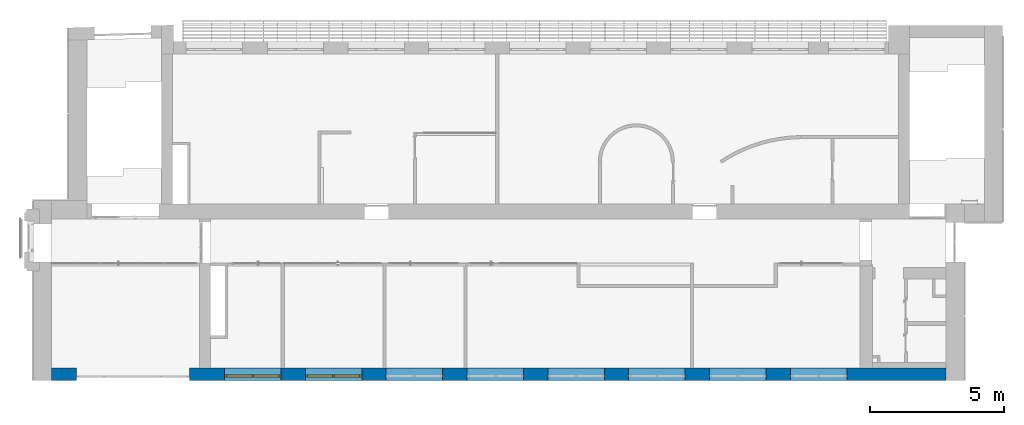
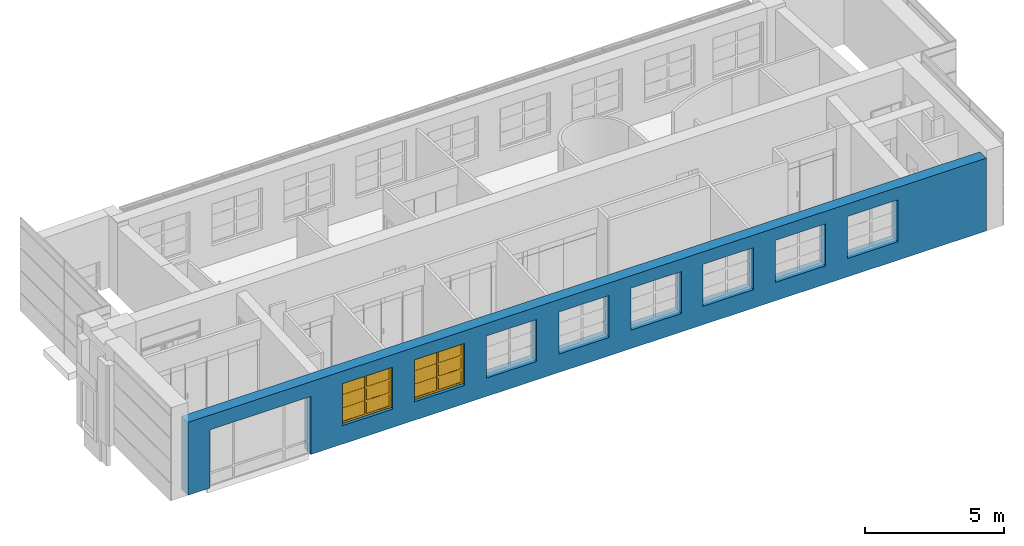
# One storey, part 26 of 46: 2 windows, 1 wall, 9 openings.
"""IFC2X3 building model written with IfcOpenShell, lengths in millimetres."""

from ifc_helpers import new_model, entity, si_unit, converted_unit, derived_unit, direction, frame, frame_2d, origin, origin_2d_with_axis, place, context, subcontext, project, spatial, rectangle, extrude, face_set, surface_model, source, transform, mapped, material, material_list, layer, layer_set, layer_usage, type_object, type_shapes, element, fill, save


model = new_model("IFC2X3")

# Units and contexts
model_context = context("Model", 3, precision=0.01, world=origin(), true_north=direction((6.12303176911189e-17, 1.0)))
body_context = subcontext(model_context, "Body", "Model", "MODEL_VIEW")
ifc_project = project(units=[si_unit("LENGTHUNIT", "METRE", prefix="MILLI"), si_unit("AREAUNIT", "SQUARE_METRE"), si_unit("VOLUMEUNIT", "CUBIC_METRE"), converted_unit("PLANEANGLEUNIT", "DEGREE", entity("IfcRatioMeasure", 0.0174532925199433), si_unit("PLANEANGLEUNIT", "RADIAN"), dimensions=[0, 0, 0, 0, 0, 0, 0]), si_unit("MASSUNIT", "GRAM", prefix="KILO"), derived_unit("MASSDENSITYUNIT", [(si_unit("MASSUNIT", "GRAM", prefix="KILO"), 1), (si_unit("LENGTHUNIT", "METRE"), -3)]), si_unit("TIMEUNIT", "SECOND"), si_unit("FREQUENCYUNIT", "HERTZ"), si_unit("THERMODYNAMICTEMPERATUREUNIT", "DEGREE_CELSIUS"), derived_unit("THERMALTRANSMITTANCEUNIT", [(si_unit("MASSUNIT", "GRAM", prefix="KILO"), 1), (si_unit("THERMODYNAMICTEMPERATUREUNIT", "KELVIN"), -1), (si_unit("TIMEUNIT", "SECOND"), -3)]), derived_unit("VOLUMETRICFLOWRATEUNIT", [(si_unit("LENGTHUNIT", "METRE"), 3), (si_unit("TIMEUNIT", "SECOND"), -1)]), si_unit("ELECTRICCURRENTUNIT", "AMPERE"), si_unit("ELECTRICVOLTAGEUNIT", "VOLT"), si_unit("POWERUNIT", "WATT"), si_unit("FORCEUNIT", "NEWTON", prefix="KILO"), si_unit("ILLUMINANCEUNIT", "LUX"), si_unit("LUMINOUSFLUXUNIT", "LUMEN"), si_unit("LUMINOUSINTENSITYUNIT", "CANDELA"), derived_unit("USERDEFINED", [(si_unit("MASSUNIT", "GRAM", prefix="KILO"), -1), (si_unit("LENGTHUNIT", "METRE"), -2), (si_unit("TIMEUNIT", "SECOND"), 3), (si_unit("LUMINOUSFLUXUNIT", "LUMEN"), 1)]), derived_unit("LINEARVELOCITYUNIT", [(si_unit("LENGTHUNIT", "METRE"), 1), (si_unit("TIMEUNIT", "SECOND"), -1)]), si_unit("PRESSUREUNIT", "PASCAL"), derived_unit("USERDEFINED", [(si_unit("LENGTHUNIT", "METRE"), -2), (si_unit("MASSUNIT", "GRAM", prefix="KILO"), 1), (si_unit("TIMEUNIT", "SECOND"), -2)])], contexts=[model_context])

# Site, building, storey
site_placement = place(None, frame((-151.875543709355, 2715.0, 0.0)))
site = spatial("IfcSite", under=ifc_project, at=site_placement, Name="Surface", CompositionType="ELEMENT")
building_placement = place(site_placement, origin())
building = spatial("IfcBuilding", under=site, at=building_placement, CompositionType="ELEMENT")
storey_placement = place(building_placement, frame((0.0, 0.0, 10060.0)))
storey = spatial("IfcBuildingStorey", under=building, at=storey_placement, Name="4 korrus", CompositionType="ELEMENT", Elevation=10060.0000000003)

# Wall, openings, windows
ifc_material_1 = material(Name="Brick, Common")
ifc_layer_1 = layer(ifc_material_1, 440.0)
ifc_material_2 = material(Name="__Kips GN13_tava")
ifc_layer_2 = layer(ifc_material_2, 20.0)
ifc_layer_set = layer_set([ifc_layer_1, ifc_layer_2], Name="Basic Wall:VS-1")
ifc_layer_usage = layer_usage(ifc_layer_set, "AXIS2", "NEGATIVE", 230.0)
wall_type = type_object("IfcWallType", Name="Basic Wall:VS-1", PredefinedType="STANDARD", material=ifc_layer_set)
wall_placement = place(storey_placement, frame((33741.6162682, 229.904632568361, 0.0), z_axis=(0.0, 0.0, 1.0), x_axis=(-1.0, 0.0, 0.0)))
wall = element("IfcWallStandardCase", 1, at=wall_placement, inside=storey, type_object=wall_type, material=ifc_layer_usage, Name="SEIN - 001", ObjectType="Basic Wall:VS-1", context=body_context, shape_type="SweptSolid", body=[
    extrude(rectangle(XDim=33281.740722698, YDim=460.0, at=frame_2d((16640.870361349, 0.0), x_axis=(-1.0, 0.0))), origin(), (0.0, 0.0, 1.0), 3210.37840402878),
])
opening_1_placement = place(wall_placement, frame((33741.6162682, 229.904632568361, 0.0), z_axis=(0.0, 0.0, 1.0), x_axis=(-1.0, 0.0, 0.0)))
element("IfcOpeningElement", 2, at=opening_1_placement, cuts=wall, Name="SEIN - 001", ObjectType="Opening", context=body_context, shape_type="SweptSolid", body=[
    extrude(rectangle(XDim=2560.0, YDim=4200.0, at=frame_2d((2.27373675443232e-13, 1.02318153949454e-12), x_axis=(0.0, 1.0))), frame((3483.85381698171, 928.104632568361, 1280.0), z_axis=(0.0, -1.0, 0.0), x_axis=(-1.0, 0.0, 0.0)), (0.0, 0.0, 1.0), 1393.8),
])
opening_2_placement = place(wall_placement, frame((33741.6162682, 229.904632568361, 0.0), z_axis=(0.0, 0.0, 1.0), x_axis=(-1.0, 0.0, 0.0)))
opening_2 = element("IfcOpeningElement", 3, at=opening_2_placement, cuts=wall, Name="SEIN - 001", ObjectType="Opening", context=body_context, shape_type="SweptSolid", body=[
    extrude(rectangle(XDim=1850.0, YDim=2100.0, at=frame_2d((0.0, 1.02318153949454e-12), x_axis=(1.0, 0.0))), frame((10949.5647264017, 927.804632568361, 1734.628696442), z_axis=(0.0, -1.0, 0.0), x_axis=(0.0, 0.0, 1.0)), (0.0, 0.0, 1.0), 1393.8),
])
opening_3_placement = place(wall_placement, frame((33741.6162682, 229.904632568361, 0.0), z_axis=(0.0, 0.0, 1.0), x_axis=(-1.0, 0.0, 0.0)))
opening_3 = element("IfcOpeningElement", 4, at=opening_3_placement, cuts=wall, Name="SEIN - 001", ObjectType="Opening", context=body_context, shape_type="SweptSolid", body=[
    extrude(rectangle(XDim=1850.0, YDim=2100.0, at=frame_2d((0.0, 5.6843418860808e-13), x_axis=(1.0, 0.0))), frame((7949.56472636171, 927.804632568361, 1734.628696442), z_axis=(0.0, -1.0, 0.0), x_axis=(0.0, 0.0, 1.0)), (0.0, 0.0, 1.0), 1393.8),
])
opening_4_placement = place(wall_placement, frame((33741.6162682, 229.904632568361, 0.0), z_axis=(0.0, 0.0, 1.0), x_axis=(-1.0, 0.0, 0.0)))
element("IfcOpeningElement", 5, at=opening_4_placement, cuts=wall, Name="SEIN - 001", ObjectType="Opening", context=body_context, shape_type="SweptSolid", body=[
    extrude(rectangle(XDim=1850.0, YDim=2100.0, at=origin_2d_with_axis()), frame((13949.5647264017, 927.804632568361, 1734.628696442), z_axis=(0.0, -1.0, 0.0), x_axis=(0.0, 0.0, 1.0)), (0.0, 0.0, 1.0), 1393.8),
])
opening_5_placement = place(wall_placement, frame((33741.6162682, 229.904632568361, 0.0), z_axis=(0.0, 0.0, 1.0), x_axis=(-1.0, 0.0, 0.0)))
element("IfcOpeningElement", 6, at=opening_5_placement, cuts=wall, Name="SEIN - 001", ObjectType="Opening", context=body_context, shape_type="SweptSolid", body=[
    extrude(rectangle(XDim=1850.0, YDim=2100.0, at=frame_2d((0.0, 1.02318153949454e-12), x_axis=(1.0, 0.0))), frame((16969.5647264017, 927.804632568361, 1734.628696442), z_axis=(0.0, -1.0, 0.0), x_axis=(0.0, 0.0, 1.0)), (0.0, 0.0, 1.0), 1393.8),
])
opening_6_placement = place(wall_placement, frame((33741.6162682, 229.904632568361, 0.0), z_axis=(0.0, 0.0, 1.0), x_axis=(-1.0, 0.0, 0.0)))
element("IfcOpeningElement", 7, at=opening_6_placement, cuts=wall, Name="SEIN - 001", ObjectType="Opening", context=body_context, shape_type="SweptSolid", body=[
    extrude(rectangle(XDim=1850.0, YDim=2100.0, at=origin_2d_with_axis()), frame((19979.5647264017, 927.804632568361, 1734.628696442), z_axis=(0.0, -1.0, 0.0), x_axis=(0.0, 0.0, 1.0)), (0.0, 0.0, 1.0), 1393.8),
])
opening_7_placement = place(wall_placement, frame((33741.6162682, 229.904632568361, 0.0), z_axis=(0.0, 0.0, 1.0), x_axis=(-1.0, 0.0, 0.0)))
element("IfcOpeningElement", 8, at=opening_7_placement, cuts=wall, Name="SEIN - 001", ObjectType="Opening", context=body_context, shape_type="SweptSolid", body=[
    extrude(rectangle(XDim=1850.0, YDim=2100.0, at=origin_2d_with_axis()), frame((22979.5647264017, 927.804632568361, 1734.628696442), z_axis=(0.0, -1.0, 0.0), x_axis=(0.0, 0.0, 1.0)), (0.0, 0.0, 1.0), 1393.8),
])
opening_8_placement = place(wall_placement, frame((33741.6162682, 229.904632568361, 0.0), z_axis=(0.0, 0.0, 1.0), x_axis=(-1.0, 0.0, 0.0)))
element("IfcOpeningElement", 9, at=opening_8_placement, cuts=wall, Name="SEIN - 001", ObjectType="Opening", context=body_context, shape_type="SweptSolid", body=[
    extrude(rectangle(XDim=1850.0, YDim=2100.0, at=origin_2d_with_axis()), frame((25989.5647264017, 927.804632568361, 1734.628696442), z_axis=(0.0, -1.0, 0.0), x_axis=(0.0, 0.0, 1.0)), (0.0, 0.0, 1.0), 1393.8),
])
opening_9_placement = place(wall_placement, frame((33741.6162682, 229.904632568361, 0.0), z_axis=(0.0, 0.0, 1.0), x_axis=(-1.0, 0.0, 0.0)))
element("IfcOpeningElement", 10, at=opening_9_placement, cuts=wall, Name="SEIN - 001", ObjectType="Opening", context=body_context, shape_type="SweptSolid", body=[
    extrude(rectangle(XDim=1850.0, YDim=2100.0, at=origin_2d_with_axis()), frame((28999.5647264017, 927.804632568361, 1734.628696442), z_axis=(0.0, -1.0, 0.0), x_axis=(0.0, 0.0, 1.0)), (0.0, 0.0, 1.0), 1393.8),
])
ifc_material_3 = material(Name="Paint - Titanium White")
ifc_material_4 = material(Name="Paint - Dark Gray")
ifc_material_5 = material(Name="Glass - Clear Fast")
ifc_material_list_1 = material_list([ifc_material_3, ifc_material_4, ifc_material_5])
ifc_material_list_2 = material_list([ifc_material_3, ifc_material_4, ifc_material_5])
window_style = type_object("IfcWindowStyle", Name="Aken_1850x2100", ConstructionType="NOTDEFINED", OperationType="DOUBLE_PANEL_VERTICAL", ParameterTakesPrecedence=False, Sizeable=False, material=ifc_material_list_2)
shared_shape = source(origin(), body_context, "Body", "SurfaceModel", [
    surface_model("IfcFaceBasedSurfaceModel", [(80.0, -665.9, 1770.0), (80.0, -620.9, 1770.0), (0.0, -620.9, 1770.0), (0.0, -665.9, 1770.0), (80.0, -665.9, 80.0), (80.0, -620.9, 80.0), (80.0, -620.9, 1770.0), (80.0, -665.9, 1770.0), (80.0, -620.9, 1770.0), (80.0, -620.9, 80.0), (0.0, -620.9, 80.0), (0.0, -620.9, 1770.0), (0.0, -665.9, 1770.0), (0.0, -620.9, 1770.0), (0.0, -620.9, 80.0), (0.0, -665.9, 80.0), (80.0, -665.9, 1770.0), (0.0, -665.9, 1770.0), (0.0, -665.9, 80.0), (80.0, -665.9, 80.0), (0.0, -665.9, 80.0), (0.0, -620.9, 80.0), (80.0, -620.9, 80.0), (80.0, -665.9, 80.0), (2020.0, -665.9, 80.0), (2020.0, -620.9, 80.0), (2100.0, -620.9, 80.0), (2100.0, -665.9, 80.0), (2020.0, -665.9, 1770.0), (2020.0, -620.9, 1770.0), (2020.0, -620.9, 80.0), (2020.0, -665.9, 80.0), (2020.0, -620.9, 80.0), (2020.0, -620.9, 1770.0), (2100.0, -620.9, 1770.0), (2100.0, -620.9, 80.0), (2100.0, -665.9, 80.0), (2100.0, -620.9, 80.0), (2100.0, -620.9, 1770.0), (2100.0, -665.9, 1770.0), (2020.0, -665.9, 80.0), (2100.0, -665.9, 80.0), (2100.0, -665.9, 1770.0), (2020.0, -665.9, 1770.0), (2100.0, -665.9, 1770.0), (2100.0, -620.9, 1770.0), (2020.0, -620.9, 1770.0), (2020.0, -665.9, 1770.0), (1010.0, -665.9, 80.0), (1010.0, -620.9, 80.0), (1090.0, -620.9, 80.0), (1090.0, -665.9, 80.0), (1010.0, -665.9, 1770.0), (1010.0, -620.9, 1770.0), (1010.0, -620.9, 80.0), (1010.0, -665.9, 80.0), (1010.0, -620.9, 80.0), (1010.0, -620.9, 1770.0), (1090.0, -620.9, 1770.0), (1090.0, -620.9, 80.0), (1090.0, -665.9, 80.0), (1090.0, -620.9, 80.0), (1090.0, -620.9, 1770.0), (1090.0, -665.9, 1770.0), (1010.0, -665.9, 80.0), (1090.0, -665.9, 80.0), (1090.0, -665.9, 1770.0), (1010.0, -665.9, 1770.0), (1090.0, -665.9, 1770.0), (1090.0, -620.9, 1770.0), (1010.0, -620.9, 1770.0), (1010.0, -665.9, 1770.0), (80.0, -665.9, 80.0), (80.0, -620.9, 80.0), (0.0, -620.9, 80.0), (0.0, -665.9, 80.0), (1010.0, -665.9, 80.0), (1010.0, -620.9, 80.0), (80.0, -620.9, 80.0), (80.0, -665.9, 80.0), (80.0, -620.9, 80.0), (1010.0, -620.9, 80.0), (1090.0, -620.9, 80.0), (2020.0, -620.9, 80.0), (2100.0, -620.9, 80.0), (2100.0, -620.9, 0.0), (0.0, -620.9, 0.0), (0.0, -620.9, 80.0), (0.0, -665.9, 80.0), (0.0, -620.9, 80.0), (0.0, -620.9, 0.0), (0.0, -665.9, 0.0), (80.0, -665.9, 80.0), (0.0, -665.9, 80.0), (0.0, -665.9, 0.0), (2100.0, -665.9, 0.0), (2100.0, -665.9, 80.0), (2020.0, -665.9, 80.0), (1090.0, -665.9, 80.0), (1010.0, -665.9, 80.0), (1090.0, -665.9, 80.0), (1090.0, -620.9, 80.0), (1010.0, -620.9, 80.0), (1010.0, -665.9, 80.0), (2020.0, -665.9, 80.0), (2020.0, -620.9, 80.0), (1090.0, -620.9, 80.0), (1090.0, -665.9, 80.0), (2100.0, -665.9, 80.0), (2100.0, -620.9, 80.0), (2020.0, -620.9, 80.0), (2020.0, -665.9, 80.0), (2100.0, -665.9, 0.0), (2100.0, -620.9, 0.0), (2100.0, -620.9, 80.0), (2100.0, -665.9, 80.0), (0.0, -665.9, 0.0), (0.0, -620.9, 0.0), (2100.0, -620.9, 0.0), (2100.0, -665.9, 0.0), (1010.0, -665.9, 1770.0), (1010.0, -620.9, 1770.0), (1090.0, -620.9, 1770.0), (1090.0, -665.9, 1770.0), (80.0, -665.9, 1770.0), (80.0, -620.9, 1770.0), (1010.0, -620.9, 1770.0), (1010.0, -665.9, 1770.0), (1010.0, -620.9, 1770.0), (80.0, -620.9, 1770.0), (0.0, -620.9, 1770.0), (0.0, -620.9, 1850.0), (2100.0, -620.9, 1850.0), (2100.0, -620.9, 1770.0), (2020.0, -620.9, 1770.0), (1090.0, -620.9, 1770.0), (1090.0, -665.9, 1770.0), (1090.0, -620.9, 1770.0), (2020.0, -620.9, 1770.0), (2020.0, -665.9, 1770.0), (1010.0, -665.9, 1770.0), (1090.0, -665.9, 1770.0), (2020.0, -665.9, 1770.0), (2100.0, -665.9, 1770.0), (2100.0, -665.9, 1850.0), (0.0, -665.9, 1850.0), (0.0, -665.9, 1770.0), (80.0, -665.9, 1770.0), (0.0, -665.9, 1770.0), (0.0, -620.9, 1770.0), (80.0, -620.9, 1770.0), (80.0, -665.9, 1770.0), (0.0, -665.9, 1850.0), (0.0, -620.9, 1850.0), (0.0, -620.9, 1770.0), (0.0, -665.9, 1770.0), (2100.0, -665.9, 1850.0), (2100.0, -620.9, 1850.0), (0.0, -620.9, 1850.0), (0.0, -665.9, 1850.0), (2100.0, -665.9, 1770.0), (2100.0, -620.9, 1770.0), (2100.0, -620.9, 1850.0), (2100.0, -665.9, 1850.0), (2020.0, -665.9, 1770.0), (2020.0, -620.9, 1770.0), (2100.0, -620.9, 1770.0), (2100.0, -665.9, 1770.0), (80.0, -640.9, 590.0), (80.0, -630.9, 590.0), (1010.0, -630.9, 590.0), (1010.0, -640.9, 590.0), (80.0, -640.9, 670.0), (80.0, -630.9, 670.0), (80.0, -630.9, 590.0), (80.0, -640.9, 590.0), (80.0, -630.9, 590.0), (80.0, -630.9, 670.0), (1010.0, -630.9, 670.0), (1010.0, -630.9, 590.0), (1010.0, -640.9, 590.0), (1010.0, -630.9, 590.0), (1010.0, -630.9, 670.0), (1010.0, -640.9, 670.0), (80.0, -640.9, 590.0), (1010.0, -640.9, 590.0), (1010.0, -640.9, 670.0), (80.0, -640.9, 670.0), (1010.0, -640.9, 670.0), (1010.0, -630.9, 670.0), (80.0, -630.9, 670.0), (80.0, -640.9, 670.0), (80.0, -640.9, 1180.0), (80.0, -630.9, 1180.0), (1010.0, -630.9, 1180.0), (1010.0, -640.9, 1180.0), (80.0, -640.9, 1260.0), (80.0, -630.9, 1260.0), (80.0, -630.9, 1180.0), (80.0, -640.9, 1180.0), (80.0, -630.9, 1180.0), (80.0, -630.9, 1260.0), (1010.0, -630.9, 1260.0), (1010.0, -630.9, 1180.0), (1010.0, -640.9, 1180.0), (1010.0, -630.9, 1180.0), (1010.0, -630.9, 1260.0), (1010.0, -640.9, 1260.0), (80.0, -640.9, 1180.0), (1010.0, -640.9, 1180.0), (1010.0, -640.9, 1260.0), (80.0, -640.9, 1260.0), (1010.0, -640.9, 1260.0), (1010.0, -630.9, 1260.0), (80.0, -630.9, 1260.0), (80.0, -640.9, 1260.0), (1090.0, -640.9, 590.0), (1090.0, -630.9, 590.0), (2020.0, -630.9, 590.0), (2020.0, -640.9, 590.0), (1090.0, -640.9, 670.0), (1090.0, -630.9, 670.0), (1090.0, -630.9, 590.0), (1090.0, -640.9, 590.0), (1090.0, -630.9, 590.0), (1090.0, -630.9, 670.0), (2020.0, -630.9, 670.0), (2020.0, -630.9, 590.0), (2020.0, -640.9, 590.0), (2020.0, -630.9, 590.0), (2020.0, -630.9, 670.0), (2020.0, -640.9, 670.0), (1090.0, -640.9, 590.0), (2020.0, -640.9, 590.0), (2020.0, -640.9, 670.0), (1090.0, -640.9, 670.0), (2020.0, -640.9, 670.0), (2020.0, -630.9, 670.0), (1090.0, -630.9, 670.0), (1090.0, -640.9, 670.0), (1090.0, -640.9, 1180.0), (1090.0, -630.9, 1180.0), (2020.0, -630.9, 1180.0), (2020.0, -640.9, 1180.0), (1090.0, -640.9, 1260.0), (1090.0, -630.9, 1260.0), (1090.0, -630.9, 1180.0), (1090.0, -640.9, 1180.0), (1090.0, -630.9, 1180.0), (1090.0, -630.9, 1260.0), (2020.0, -630.9, 1260.0), (2020.0, -630.9, 1180.0), (2020.0, -640.9, 1180.0), (2020.0, -630.9, 1180.0), (2020.0, -630.9, 1260.0), (2020.0, -640.9, 1260.0), (1090.0, -640.9, 1180.0), (2020.0, -640.9, 1180.0), (2020.0, -640.9, 1260.0), (1090.0, -640.9, 1260.0), (2020.0, -640.9, 1260.0), (2020.0, -630.9, 1260.0), (1090.0, -630.9, 1260.0), (1090.0, -640.9, 1260.0)], [face_set([[[0, 1, 2, 3]]]), face_set([[[4, 5, 6, 7]]]), face_set([[[8, 9, 10, 11]]]), face_set([[[12, 13, 14, 15]]]), face_set([[[16, 17, 18, 19]]]), face_set([[[20, 21, 22, 23]]]), face_set([[[24, 25, 26, 27]]]), face_set([[[28, 29, 30, 31]]]), face_set([[[32, 33, 34, 35]]]), face_set([[[36, 37, 38, 39]]]), face_set([[[40, 41, 42, 43]]]), face_set([[[44, 45, 46, 47]]]), face_set([[[48, 49, 50, 51]]]), face_set([[[52, 53, 54, 55]]]), face_set([[[56, 57, 58, 59]]]), face_set([[[60, 61, 62, 63]]]), face_set([[[64, 65, 66, 67]]]), face_set([[[68, 69, 70, 71]]]), face_set([[[72, 73, 74, 75]]]), face_set([[[76, 77, 78, 79]]]), face_set([[[80, 81, 82, 83, 84, 85, 86, 87]]]), face_set([[[88, 89, 90, 91]]]), face_set([[[92, 93, 94, 95, 96, 97, 98, 99]]]), face_set([[[100, 101, 102, 103]]]), face_set([[[104, 105, 106, 107]]]), face_set([[[108, 109, 110, 111]]]), face_set([[[112, 113, 114, 115]]]), face_set([[[116, 117, 118, 119]]]), face_set([[[120, 121, 122, 123]]]), face_set([[[124, 125, 126, 127]]]), face_set([[[128, 129, 130, 131, 132, 133, 134, 135]]]), face_set([[[136, 137, 138, 139]]]), face_set([[[140, 141, 142, 143, 144, 145, 146, 147]]]), face_set([[[148, 149, 150, 151]]]), face_set([[[152, 153, 154, 155]]]), face_set([[[156, 157, 158, 159]]]), face_set([[[160, 161, 162, 163]]]), face_set([[[164, 165, 166, 167]]]), face_set([[[168, 169, 170, 171]]]), face_set([[[172, 173, 174, 175]]]), face_set([[[176, 177, 178, 179]]]), face_set([[[180, 181, 182, 183]]]), face_set([[[184, 185, 186, 187]]]), face_set([[[188, 189, 190, 191]]]), face_set([[[192, 193, 194, 195]]]), face_set([[[196, 197, 198, 199]]]), face_set([[[200, 201, 202, 203]]]), face_set([[[204, 205, 206, 207]]]), face_set([[[208, 209, 210, 211]]]), face_set([[[212, 213, 214, 215]]]), face_set([[[216, 217, 218, 219]]]), face_set([[[220, 221, 222, 223]]]), face_set([[[224, 225, 226, 227]]]), face_set([[[228, 229, 230, 231]]]), face_set([[[232, 233, 234, 235]]]), face_set([[[236, 237, 238, 239]]]), face_set([[[240, 241, 242, 243]]]), face_set([[[244, 245, 246, 247]]]), face_set([[[248, 249, 250, 251]]]), face_set([[[252, 253, 254, 255]]]), face_set([[[256, 257, 258, 259]]]), face_set([[[260, 261, 262, 263]]])]),
    surface_model("IfcFaceBasedSurfaceModel", [(80.0, -620.9, 1770.0), (80.0, -595.9, 1770.0), (0.0, -595.9, 1770.0), (0.0, -620.9, 1770.0), (80.0, -620.9, 80.0), (80.0, -595.9, 80.0), (80.0, -595.9, 1770.0), (80.0, -620.9, 1770.0), (80.0, -595.9, 1770.0), (80.0, -595.9, 80.0), (0.0, -595.9, 80.0), (0.0, -595.9, 1770.0), (0.0, -620.9, 1770.0), (0.0, -595.9, 1770.0), (0.0, -595.9, 80.0), (0.0, -620.9, 80.0), (80.0, -620.9, 1770.0), (0.0, -620.9, 1770.0), (0.0, -620.9, 80.0), (80.0, -620.9, 80.0), (0.0, -620.9, 80.0), (0.0, -595.9, 80.0), (80.0, -595.9, 80.0), (80.0, -620.9, 80.0), (2020.0, -620.9, 80.0), (2020.0, -595.9, 80.0), (2100.0, -595.9, 80.0), (2100.0, -620.9, 80.0), (2020.0, -620.9, 1770.0), (2020.0, -595.9, 1770.0), (2020.0, -595.9, 80.0), (2020.0, -620.9, 80.0), (2020.0, -595.9, 80.0), (2020.0, -595.9, 1770.0), (2100.0, -595.9, 1770.0), (2100.0, -595.9, 80.0), (2100.0, -620.9, 80.0), (2100.0, -595.9, 80.0), (2100.0, -595.9, 1770.0), (2100.0, -620.9, 1770.0), (2020.0, -620.9, 80.0), (2100.0, -620.9, 80.0), (2100.0, -620.9, 1770.0), (2020.0, -620.9, 1770.0), (2100.0, -620.9, 1770.0), (2100.0, -595.9, 1770.0), (2020.0, -595.9, 1770.0), (2020.0, -620.9, 1770.0), (1010.0, -620.9, 80.0), (1010.0, -595.9, 80.0), (1090.0, -595.9, 80.0), (1090.0, -620.9, 80.0), (1010.0, -620.9, 1770.0), (1010.0, -595.9, 1770.0), (1010.0, -595.9, 80.0), (1010.0, -620.9, 80.0), (1010.0, -595.9, 80.0), (1010.0, -595.9, 1770.0), (1090.0, -595.9, 1770.0), (1090.0, -595.9, 80.0), (1090.0, -620.9, 80.0), (1090.0, -595.9, 80.0), (1090.0, -595.9, 1770.0), (1090.0, -620.9, 1770.0), (1010.0, -620.9, 80.0), (1090.0, -620.9, 80.0), (1090.0, -620.9, 1770.0), (1010.0, -620.9, 1770.0), (1090.0, -620.9, 1770.0), (1090.0, -595.9, 1770.0), (1010.0, -595.9, 1770.0), (1010.0, -620.9, 1770.0), (80.0, -620.9, 80.0), (80.0, -595.9, 80.0), (0.0, -595.9, 80.0), (0.0, -620.9, 80.0), (1010.0, -620.9, 80.0), (1010.0, -595.9, 80.0), (80.0, -595.9, 80.0), (80.0, -620.9, 80.0), (80.0, -595.9, 80.0), (1010.0, -595.9, 80.0), (1090.0, -595.9, 80.0), (2020.0, -595.9, 80.0), (2100.0, -595.9, 80.0), (2100.0, -595.9, 0.0), (0.0, -595.9, 0.0), (0.0, -595.9, 80.0), (0.0, -620.9, 80.0), (0.0, -595.9, 80.0), (0.0, -595.9, 0.0), (0.0, -620.9, 0.0), (80.0, -620.9, 80.0), (0.0, -620.9, 80.0), (0.0, -620.9, 0.0), (2100.0, -620.9, 0.0), (2100.0, -620.9, 80.0), (2020.0, -620.9, 80.0), (1090.0, -620.9, 80.0), (1010.0, -620.9, 80.0), (1090.0, -620.9, 80.0), (1090.0, -595.9, 80.0), (1010.0, -595.9, 80.0), (1010.0, -620.9, 80.0), (2020.0, -620.9, 80.0), (2020.0, -595.9, 80.0), (1090.0, -595.9, 80.0), (1090.0, -620.9, 80.0), (2100.0, -620.9, 80.0), (2100.0, -595.9, 80.0), (2020.0, -595.9, 80.0), (2020.0, -620.9, 80.0), (2100.0, -620.9, 0.0), (2100.0, -595.9, 0.0), (2100.0, -595.9, 80.0), (2100.0, -620.9, 80.0), (0.0, -620.9, 0.0), (0.0, -595.9, 0.0), (2100.0, -595.9, 0.0), (2100.0, -620.9, 0.0), (1010.0, -620.9, 1770.0), (1010.0, -595.9, 1770.0), (1090.0, -595.9, 1770.0), (1090.0, -620.9, 1770.0), (80.0, -620.9, 1770.0), (80.0, -595.9, 1770.0), (1010.0, -595.9, 1770.0), (1010.0, -620.9, 1770.0), (1010.0, -595.9, 1770.0), (80.0, -595.9, 1770.0), (0.0, -595.9, 1770.0), (0.0, -595.9, 1850.0), (2100.0, -595.9, 1850.0), (2100.0, -595.9, 1770.0), (2020.0, -595.9, 1770.0), (1090.0, -595.9, 1770.0), (1090.0, -620.9, 1770.0), (1090.0, -595.9, 1770.0), (2020.0, -595.9, 1770.0), (2020.0, -620.9, 1770.0), (1010.0, -620.9, 1770.0), (1090.0, -620.9, 1770.0), (2020.0, -620.9, 1770.0), (2100.0, -620.9, 1770.0), (2100.0, -620.9, 1850.0), (0.0, -620.9, 1850.0), (0.0, -620.9, 1770.0), (80.0, -620.9, 1770.0), (0.0, -620.9, 1770.0), (0.0, -595.9, 1770.0), (80.0, -595.9, 1770.0), (80.0, -620.9, 1770.0), (0.0, -620.9, 1850.0), (0.0, -595.9, 1850.0), (0.0, -595.9, 1770.0), (0.0, -620.9, 1770.0), (2100.0, -620.9, 1850.0), (2100.0, -595.9, 1850.0), (0.0, -595.9, 1850.0), (0.0, -620.9, 1850.0), (2100.0, -620.9, 1770.0), (2100.0, -595.9, 1770.0), (2100.0, -595.9, 1850.0), (2100.0, -620.9, 1850.0), (2020.0, -620.9, 1770.0), (2020.0, -595.9, 1770.0), (2100.0, -595.9, 1770.0), (2100.0, -620.9, 1770.0), (80.0, -630.9, 590.0), (80.0, -600.9, 590.0), (1010.0, -600.9, 590.0), (1010.0, -630.9, 590.0), (80.0, -630.9, 670.0), (80.0, -600.9, 670.0), (80.0, -600.9, 590.0), (80.0, -630.9, 590.0), (80.0, -600.9, 590.0), (80.0, -600.9, 670.0), (1010.0, -600.9, 670.0), (1010.0, -600.9, 590.0), (1010.0, -630.9, 590.0), (1010.0, -600.9, 590.0), (1010.0, -600.9, 670.0), (1010.0, -630.9, 670.0), (80.0, -630.9, 590.0), (1010.0, -630.9, 590.0), (1010.0, -630.9, 670.0), (80.0, -630.9, 670.0), (1010.0, -630.9, 670.0), (1010.0, -600.9, 670.0), (80.0, -600.9, 670.0), (80.0, -630.9, 670.0), (80.0, -630.9, 1180.0), (80.0, -600.9, 1180.0), (1010.0, -600.9, 1180.0), (1010.0, -630.9, 1180.0), (80.0, -630.9, 1260.0), (80.0, -600.9, 1260.0), (80.0, -600.9, 1180.0), (80.0, -630.9, 1180.0), (80.0, -600.9, 1180.0), (80.0, -600.9, 1260.0), (1010.0, -600.9, 1260.0), (1010.0, -600.9, 1180.0), (1010.0, -630.9, 1180.0), (1010.0, -600.9, 1180.0), (1010.0, -600.9, 1260.0), (1010.0, -630.9, 1260.0), (80.0, -630.9, 1180.0), (1010.0, -630.9, 1180.0), (1010.0, -630.9, 1260.0), (80.0, -630.9, 1260.0), (1010.0, -630.9, 1260.0), (1010.0, -600.9, 1260.0), (80.0, -600.9, 1260.0), (80.0, -630.9, 1260.0), (1090.0, -630.9, 590.0), (1090.0, -600.9, 590.0), (2020.0, -600.9, 590.0), (2020.0, -630.9, 590.0), (1090.0, -630.9, 670.0), (1090.0, -600.9, 670.0), (1090.0, -600.9, 590.0), (1090.0, -630.9, 590.0), (1090.0, -600.9, 590.0), (1090.0, -600.9, 670.0), (2020.0, -600.9, 670.0), (2020.0, -600.9, 590.0), (2020.0, -630.9, 590.0), (2020.0, -600.9, 590.0), (2020.0, -600.9, 670.0), (2020.0, -630.9, 670.0), (1090.0, -630.9, 590.0), (2020.0, -630.9, 590.0), (2020.0, -630.9, 670.0), (1090.0, -630.9, 670.0), (2020.0, -630.9, 670.0), (2020.0, -600.9, 670.0), (1090.0, -600.9, 670.0), (1090.0, -630.9, 670.0), (1090.0, -630.9, 1180.0), (1090.0, -600.9, 1180.0), (2020.0, -600.9, 1180.0), (2020.0, -630.9, 1180.0), (1090.0, -630.9, 1260.0), (1090.0, -600.9, 1260.0), (1090.0, -600.9, 1180.0), (1090.0, -630.9, 1180.0), (1090.0, -600.9, 1180.0), (1090.0, -600.9, 1260.0), (2020.0, -600.9, 1260.0), (2020.0, -600.9, 1180.0), (2020.0, -630.9, 1180.0), (2020.0, -600.9, 1180.0), (2020.0, -600.9, 1260.0), (2020.0, -630.9, 1260.0), (1090.0, -630.9, 1180.0), (2020.0, -630.9, 1180.0), (2020.0, -630.9, 1260.0), (1090.0, -630.9, 1260.0), (2020.0, -630.9, 1260.0), (2020.0, -600.9, 1260.0), (1090.0, -600.9, 1260.0), (1090.0, -630.9, 1260.0)], [face_set([[[0, 1, 2, 3]]]), face_set([[[4, 5, 6, 7]]]), face_set([[[8, 9, 10, 11]]]), face_set([[[12, 13, 14, 15]]]), face_set([[[16, 17, 18, 19]]]), face_set([[[20, 21, 22, 23]]]), face_set([[[24, 25, 26, 27]]]), face_set([[[28, 29, 30, 31]]]), face_set([[[32, 33, 34, 35]]]), face_set([[[36, 37, 38, 39]]]), face_set([[[40, 41, 42, 43]]]), face_set([[[44, 45, 46, 47]]]), face_set([[[48, 49, 50, 51]]]), face_set([[[52, 53, 54, 55]]]), face_set([[[56, 57, 58, 59]]]), face_set([[[60, 61, 62, 63]]]), face_set([[[64, 65, 66, 67]]]), face_set([[[68, 69, 70, 71]]]), face_set([[[72, 73, 74, 75]]]), face_set([[[76, 77, 78, 79]]]), face_set([[[80, 81, 82, 83, 84, 85, 86, 87]]]), face_set([[[88, 89, 90, 91]]]), face_set([[[92, 93, 94, 95, 96, 97, 98, 99]]]), face_set([[[100, 101, 102, 103]]]), face_set([[[104, 105, 106, 107]]]), face_set([[[108, 109, 110, 111]]]), face_set([[[112, 113, 114, 115]]]), face_set([[[116, 117, 118, 119]]]), face_set([[[120, 121, 122, 123]]]), face_set([[[124, 125, 126, 127]]]), face_set([[[128, 129, 130, 131, 132, 133, 134, 135]]]), face_set([[[136, 137, 138, 139]]]), face_set([[[140, 141, 142, 143, 144, 145, 146, 147]]]), face_set([[[148, 149, 150, 151]]]), face_set([[[152, 153, 154, 155]]]), face_set([[[156, 157, 158, 159]]]), face_set([[[160, 161, 162, 163]]]), face_set([[[164, 165, 166, 167]]]), face_set([[[168, 169, 170, 171]]]), face_set([[[172, 173, 174, 175]]]), face_set([[[176, 177, 178, 179]]]), face_set([[[180, 181, 182, 183]]]), face_set([[[184, 185, 186, 187]]]), face_set([[[188, 189, 190, 191]]]), face_set([[[192, 193, 194, 195]]]), face_set([[[196, 197, 198, 199]]]), face_set([[[200, 201, 202, 203]]]), face_set([[[204, 205, 206, 207]]]), face_set([[[208, 209, 210, 211]]]), face_set([[[212, 213, 214, 215]]]), face_set([[[216, 217, 218, 219]]]), face_set([[[220, 221, 222, 223]]]), face_set([[[224, 225, 226, 227]]]), face_set([[[228, 229, 230, 231]]]), face_set([[[232, 233, 234, 235]]]), face_set([[[236, 237, 238, 239]]]), face_set([[[240, 241, 242, 243]]]), face_set([[[244, 245, 246, 247]]]), face_set([[[248, 249, 250, 251]]]), face_set([[[252, 253, 254, 255]]]), face_set([[[256, 257, 258, 259]]]), face_set([[[260, 261, 262, 263]]])]),
    surface_model("IfcFaceBasedSurfaceModel", [(1010.0, -630.9, 80.0), (1010.0, -630.9, 590.0), (80.0, -630.9, 590.0), (80.0, -630.9, 80.0), (1010.0, -610.9, 80.0), (80.0, -610.9, 80.0), (80.0, -610.9, 590.0), (1010.0, -610.9, 590.0), (1010.0, -630.9, 670.0), (1010.0, -630.9, 1180.0), (80.0, -630.9, 1180.0), (80.0, -630.9, 670.0), (1010.0, -610.9, 670.0), (80.0, -610.9, 670.0), (80.0, -610.9, 1180.0), (1010.0, -610.9, 1180.0), (1010.0, -630.9, 1260.0), (1010.0, -630.9, 1770.0), (80.0, -630.9, 1770.0), (80.0, -630.9, 1260.0), (1010.0, -610.9, 1260.0), (80.0, -610.9, 1260.0), (80.0, -610.9, 1770.0), (1010.0, -610.9, 1770.0), (2020.0, -630.9, 80.0), (2020.0, -630.9, 590.0), (1090.0, -630.9, 590.0), (1090.0, -630.9, 80.0), (2020.0, -610.9, 80.0), (1090.0, -610.9, 80.0), (1090.0, -610.9, 590.0), (2020.0, -610.9, 590.0), (2020.0, -630.9, 670.0), (2020.0, -630.9, 1180.0), (1090.0, -630.9, 1180.0), (1090.0, -630.9, 670.0), (2020.0, -610.9, 670.0), (1090.0, -610.9, 670.0), (1090.0, -610.9, 1180.0), (2020.0, -610.9, 1180.0), (2020.0, -630.9, 1260.0), (2020.0, -630.9, 1770.0), (1090.0, -630.9, 1770.0), (1090.0, -630.9, 1260.0), (2020.0, -610.9, 1260.0), (1090.0, -610.9, 1260.0), (1090.0, -610.9, 1770.0), (2020.0, -610.9, 1770.0)], [face_set([[[0, 1, 2, 3]]]), face_set([[[4, 5, 6, 7]]]), face_set([[[8, 9, 10, 11]]]), face_set([[[12, 13, 14, 15]]]), face_set([[[16, 17, 18, 19]]]), face_set([[[20, 21, 22, 23]]]), face_set([[[24, 25, 26, 27]]]), face_set([[[28, 29, 30, 31]]]), face_set([[[32, 33, 34, 35]]]), face_set([[[36, 37, 38, 39]]]), face_set([[[40, 41, 42, 43]]]), face_set([[[44, 45, 46, 47]]])]),
])
type_shapes(window_style, [shared_shape])
window_1_placement = place(opening_2_placement, frame((11999.5647264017, -465.995367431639, 809.628696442), z_axis=(0.0, 0.0, 1.0), x_axis=(-1.0, 0.0, 0.0)))
window_1 = element("IfcWindow", 11, at=window_1_placement, inside=storey, type_object=window_style, material=ifc_material_list_1, Name="Aken_1850x2100:Aken_1850x2100", ObjectType="Aken_1850x2100", OverallHeight=2100.0, OverallWidth=1850.0, context=body_context, shape_type="MappedRepresentation", body=[
    mapped(shared_shape, transform((0.0, 0.0, 0.0), scale=1.0)),
])
fill(opening_2, window_1)
ifc_material_list_3 = material_list([ifc_material_3, ifc_material_4, ifc_material_5])
window_2_placement = place(opening_3_placement, frame((8999.56472636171, -465.995367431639, 809.628696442), z_axis=(0.0, 0.0, 1.0), x_axis=(-1.0, 0.0, 0.0)))
window_2 = element("IfcWindow", 12, at=window_2_placement, inside=storey, type_object=window_style, material=ifc_material_list_3, Name="Aken_1850x2100:Aken_1850x2100", ObjectType="Aken_1850x2100", OverallHeight=2100.0, OverallWidth=1850.0, context=body_context, shape_type="MappedRepresentation", body=[
    mapped(shared_shape, transform((0.0, 0.0, 0.0), scale=1.0)),
])
fill(opening_3, window_2)

save(model, "model.ifc")
